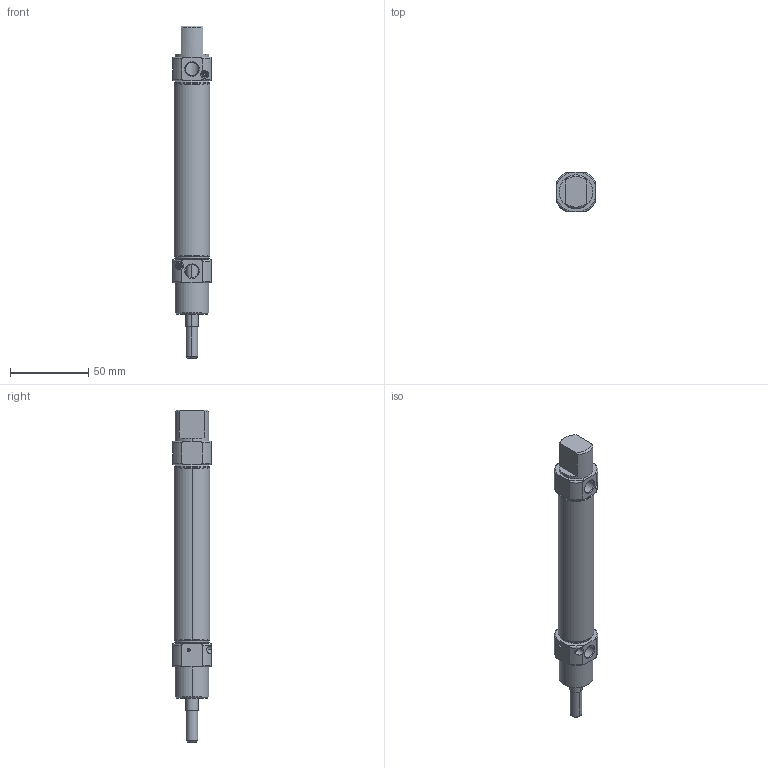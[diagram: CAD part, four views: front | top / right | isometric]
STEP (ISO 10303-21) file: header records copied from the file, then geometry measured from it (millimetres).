
FILE_DESCRIPTION (( 'STEP AP214' ), '1' );
FILE_NAME ('RMA_20_75_WEB.STEP', '2021-05-09T12:12:08', ( '' ), ( '' ), 'SwSTEP 2.0', 'SolidWorks 2021', '' );
FILE_SCHEMA (( 'AUTOMOTIVE_DESIGN' ));
Length unit declared in the file: millimetre
Products named in the file (5): RMA_20_ARKA_kapak; RMA_20_onkapak1; RMA_20_75_WEB; RMA_20_M尳_WEB; RMA_20_BORU_WEB
Assembly tree (4 placements, depth 2):
  RMA_20_75_WEB
    RMA_20_BORU_WEB
    RMA_20_onkapak1
    RMA_20_ARKA_kapak
    RMA_20_M尳_WEB
Bounding box: 24.7 x 24.7 x 212.4 mm (x, y, z)
Volume: 44670.7 mm3; surface area: 29925.6 mm2
Topology: 4 solids, 4 shells, 213 faces, 498 edges, 313 vertices
Faces by surface type: cylinder 100, plane 52, cone 45, torus 16
Entity records: 7225 total; most frequent: CARTESIAN_POINT 1875, DIRECTION 1103, ORIENTED_EDGE 996, EDGE_CURVE 498, AXIS2_PLACEMENT_3D 465, VERTEX_POINT 313, EDGE_LOOP 253, CIRCLE 245
